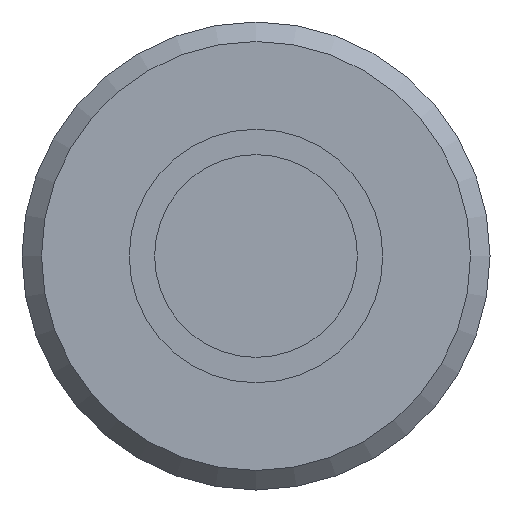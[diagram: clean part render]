
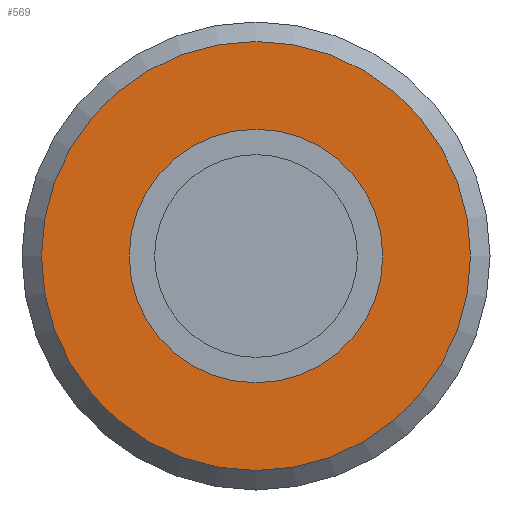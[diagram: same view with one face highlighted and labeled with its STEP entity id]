
A CAD part, front view. The second image highlights one B-rep face of the part: STEP entity #569.
In plain terms, the highlighted planar face has unit normal (0, -1, 0).
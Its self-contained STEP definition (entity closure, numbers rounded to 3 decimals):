
#97=CARTESIAN_POINT('',(3.25,-1.561,0.));
#98=VERTEX_POINT('',#97);
#99=CARTESIAN_POINT('',(0.0,-1.561,0.0));
#100=DIRECTION('',(0.0,1.0,0.0));
#101=DIRECTION('',(-1.0,0.0,0.0));
#102=AXIS2_PLACEMENT_3D('',#99,#100,#101);
#103=CIRCLE('',#102,3.25);
#104=EDGE_CURVE('',#98,#98,#103,.T.);
#546=CARTESIAN_POINT('',(5.5,-1.561,0.));
#547=VERTEX_POINT('',#546);
#548=CARTESIAN_POINT('',(0.0,-1.561,0.0));
#549=DIRECTION('',(0.0,1.0,0.0));
#550=DIRECTION('',(-1.0,0.0,0.0));
#551=AXIS2_PLACEMENT_3D('',#548,#549,#550);
#552=CIRCLE('',#551,5.5);
#553=EDGE_CURVE('',#547,#547,#552,.T.);
#558=CARTESIAN_POINT('',(3.,-1.561,0.0));
#559=DIRECTION('',(0.0,-1.0,0.0));
#560=DIRECTION('',(0.0,0.0,-1.0));
#561=AXIS2_PLACEMENT_3D('',#558,#559,#560);
#562=PLANE('',#561);
#563=ORIENTED_EDGE('',*,*,#553,.F.);
#564=EDGE_LOOP('',(#563));
#565=FACE_OUTER_BOUND('',#564,.T.);
#566=ORIENTED_EDGE('',*,*,#104,.T.);
#567=EDGE_LOOP('',(#566));
#568=FACE_BOUND('',#567,.T.);
#569=ADVANCED_FACE('',(#565,#568),#562,.T.);
